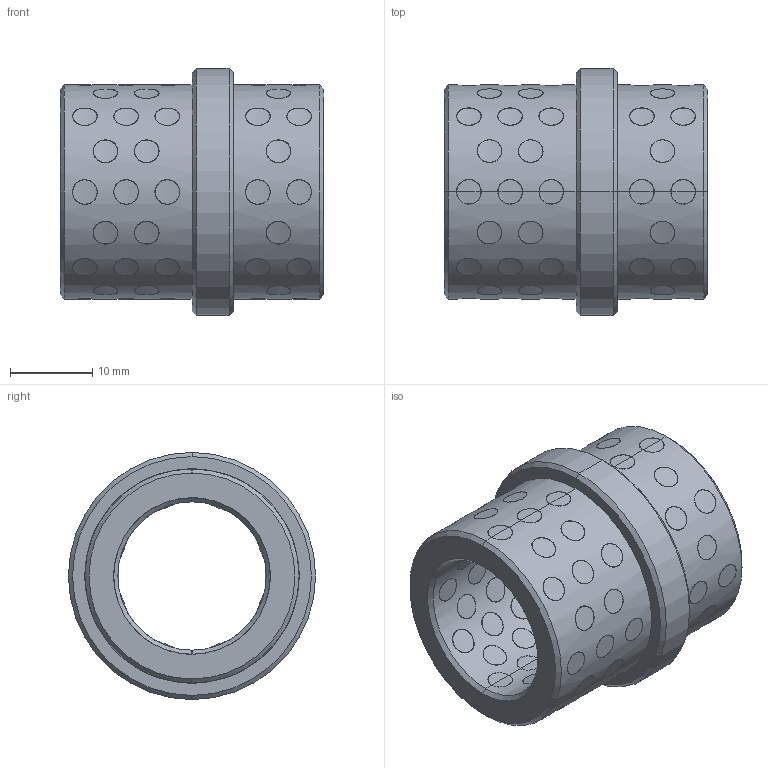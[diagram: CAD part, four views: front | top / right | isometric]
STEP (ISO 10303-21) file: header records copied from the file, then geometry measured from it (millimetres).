
FILE_DESCRIPTION(('CATIA V5 STEP Exchange'),'2;1');
FILE_NAME('C:\Users\Utente\Desktop\3D files G403\G4031832.stp','2020-04-22T08:51:45+00:00',('none'),('none'),'CATIA Version 5 Release 20 GA (IN-10)','CATIA V5 STEP AP203','none');
FILE_SCHEMA(('CONFIG_CONTROL_DESIGN'));
Length unit declared in the file: millimetre
Products named in the file (1): G4031832
Bounding box: 32 x 30 x 30 mm (x, y, z)
Surface area: 10032.1 mm2 (no closed solid volume)
Topology: 0 solids, 428 shells, 428 faces, 1872 edges, 1872 vertices
Faces by surface type: cylinder 412, revolution 12, plane 4
Entity records: 32956 total; most frequent: CARTESIAN_POINT 19987, ORIENTED_EDGE 1872, EDGE_CURVE 1872, VERTEX_POINT 1872, DIRECTION 1523, B_SPLINE_CURVE_WITH_KNOTS 1205, VECTOR 632, LINE 632
